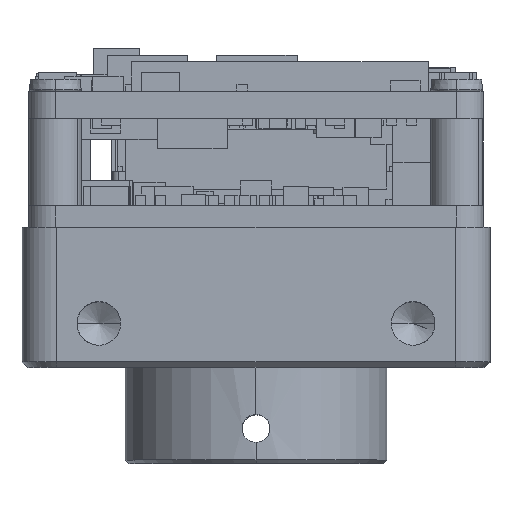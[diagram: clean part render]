
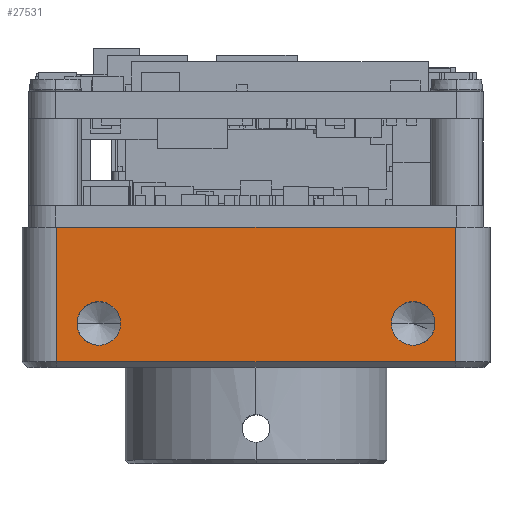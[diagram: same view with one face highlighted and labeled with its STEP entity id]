
A CAD part, top view. The second image highlights one B-rep face of the part: STEP entity #27531.
In plain terms, the highlighted planar face has unit normal (0, 0, 1).
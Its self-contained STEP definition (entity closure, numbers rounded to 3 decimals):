
#656 = CARTESIAN_POINT ( 'NONE',  ( -10.25, 2.5, 13.4 ) ) ;
#1816 = ORIENTED_EDGE ( 'NONE', *, *, #12610, .F. ) ;
#1964 = DIRECTION ( 'NONE',  ( 1., 0., 0. ) ) ;
#2414 = AXIS2_PLACEMENT_3D ( 'NONE', #76743, #66700, #28257 ) ;
#3017 = LINE ( 'NONE', #25276, #5752 ) ;
#5570 = DIRECTION ( 'NONE',  ( 0., 0., 1. ) ) ;
#5752 = VECTOR ( 'NONE', #48496, 1000. ) ;
#10668 = EDGE_CURVE ( 'NONE', #92991, #23358, #36415, .T. ) ;
#12176 = LINE ( 'NONE', #43559, #78360 ) ;
#12561 = CARTESIAN_POINT ( 'NONE',  ( -7.75, 2.5, 13.4 ) ) ;
#12610 = EDGE_CURVE ( 'NONE', #23358, #92991, #75349, .T. ) ;
#14636 = CARTESIAN_POINT ( 'NONE',  ( 11.4, 0.3, 13.4 ) ) ;
#14993 = FACE_BOUND ( 'NONE', #75119, .T. ) ;
#15639 = AXIS2_PLACEMENT_3D ( 'NONE', #67793, #5570, #75857 ) ;
#15755 = DIRECTION ( 'NONE',  ( 0., 0., 1. ) ) ;
#16609 = CARTESIAN_POINT ( 'NONE',  ( -11.4, 8., 13.4 ) ) ;
#22098 = VECTOR ( 'NONE', #99867, 1000. ) ;
#22647 = ORIENTED_EDGE ( 'NONE', *, *, #46222, .F. ) ;
#23358 = VERTEX_POINT ( 'NONE', #94810 ) ;
#25276 = CARTESIAN_POINT ( 'NONE',  ( -11.4, 8., 13.4 ) ) ;
#25464 = CARTESIAN_POINT ( 'NONE',  ( -13.4, 0.3, 13.4 ) ) ;
#27531 = ADVANCED_FACE ( 'NONE', ( #84317, #91940, #14993 ), #45876, .F. ) ;
#28257 = DIRECTION ( 'NONE',  ( -1., 0., 0. ) ) ;
#28415 = DIRECTION ( 'NONE',  ( 0., 1., 0. ) ) ;
#30977 = VERTEX_POINT ( 'NONE', #16609 ) ;
#31188 = VERTEX_POINT ( 'NONE', #12561 ) ;
#31612 = VECTOR ( 'NONE', #79556, 1000. ) ;
#35479 = CARTESIAN_POINT ( 'NONE',  ( -9., 2.5, 13.4 ) ) ;
#36247 = EDGE_CURVE ( 'NONE', #30977, #88417, #85112, .T. ) ;
#36415 = CIRCLE ( 'NONE', #49233, 1.25 ) ;
#37825 = EDGE_CURVE ( 'NONE', #30977, #52245, #3017, .T. ) ;
#39267 = ORIENTED_EDGE ( 'NONE', *, *, #36247, .F. ) ;
#39672 = LINE ( 'NONE', #25464, #31612 ) ;
#43009 = DIRECTION ( 'NONE',  ( 1., 0., 0. ) ) ;
#43559 = CARTESIAN_POINT ( 'NONE',  ( 11.4, 8., 13.4 ) ) ;
#44667 = AXIS2_PLACEMENT_3D ( 'NONE', #64695, #47483, #1964 ) ;
#44848 = ORIENTED_EDGE ( 'NONE', *, *, #10668, .F. ) ;
#45876 = PLANE ( 'NONE',  #2414 ) ;
#46222 = EDGE_CURVE ( 'NONE', #31188, #89509, #57607, .T. ) ;
#46630 = DIRECTION ( 'NONE',  ( 1., 0., 0. ) ) ;
#47091 = ORIENTED_EDGE ( 'NONE', *, *, #37825, .T. ) ;
#47483 = DIRECTION ( 'NONE',  ( 0., 0., 1. ) ) ;
#48314 = EDGE_LOOP ( 'NONE', ( #44848, #1816 ) ) ;
#48496 = DIRECTION ( 'NONE',  ( 0., -1., 0. ) ) ;
#49233 = AXIS2_PLACEMENT_3D ( 'NONE', #54225, #15755, #46630 ) ;
#50576 = DIRECTION ( 'NONE',  ( 0., 0., 1. ) ) ;
#52245 = VERTEX_POINT ( 'NONE', #97023 ) ;
#54225 = CARTESIAN_POINT ( 'NONE',  ( 9., 2.5, 13.4 ) ) ;
#57607 = CIRCLE ( 'NONE', #15639, 1.25 ) ;
#61780 = ORIENTED_EDGE ( 'NONE', *, *, #92383, .F. ) ;
#64695 = CARTESIAN_POINT ( 'NONE',  ( 9., 2.5, 13.4 ) ) ;
#64951 = ORIENTED_EDGE ( 'NONE', *, *, #73537, .T. ) ;
#66700 = DIRECTION ( 'NONE',  ( 0., 0., -1. ) ) ;
#67793 = CARTESIAN_POINT ( 'NONE',  ( -9., 2.5, 13.4 ) ) ;
#68999 = CARTESIAN_POINT ( 'NONE',  ( -13.4, 8., 13.4 ) ) ;
#71299 = EDGE_CURVE ( 'NONE', #71498, #88417, #12176, .T. ) ;
#71498 = VERTEX_POINT ( 'NONE', #14636 ) ;
#73537 = EDGE_CURVE ( 'NONE', #52245, #71498, #39672, .T. ) ;
#75119 = EDGE_LOOP ( 'NONE', ( #22647, #61780 ) ) ;
#75349 = CIRCLE ( 'NONE', #44667, 1.25 ) ;
#75857 = DIRECTION ( 'NONE',  ( 1., 0., 0. ) ) ;
#76743 = CARTESIAN_POINT ( 'NONE',  ( -13.4, 8., 13.4 ) ) ;
#78360 = VECTOR ( 'NONE', #28415, 1000. ) ;
#79556 = DIRECTION ( 'NONE',  ( 1., 0., 0. ) ) ;
#81530 = EDGE_LOOP ( 'NONE', ( #47091, #64951, #87644, #39267 ) ) ;
#84317 = FACE_BOUND ( 'NONE', #48314, .T. ) ;
#84433 = CIRCLE ( 'NONE', #97407, 1.25 ) ;
#85112 = LINE ( 'NONE', #68999, #22098 ) ;
#86171 = CARTESIAN_POINT ( 'NONE',  ( 10.25, 2.5, 13.4 ) ) ;
#87644 = ORIENTED_EDGE ( 'NONE', *, *, #71299, .T. ) ;
#88417 = VERTEX_POINT ( 'NONE', #92095 ) ;
#89509 = VERTEX_POINT ( 'NONE', #656 ) ;
#91940 = FACE_OUTER_BOUND ( 'NONE', #81530, .T. ) ;
#92095 = CARTESIAN_POINT ( 'NONE',  ( 11.4, 8., 13.4 ) ) ;
#92383 = EDGE_CURVE ( 'NONE', #89509, #31188, #84433, .T. ) ;
#92991 = VERTEX_POINT ( 'NONE', #86171 ) ;
#94810 = CARTESIAN_POINT ( 'NONE',  ( 7.75, 2.5, 13.4 ) ) ;
#97023 = CARTESIAN_POINT ( 'NONE',  ( -11.4, 0.3, 13.4 ) ) ;
#97407 = AXIS2_PLACEMENT_3D ( 'NONE', #35479, #50576, #43009 ) ;
#99867 = DIRECTION ( 'NONE',  ( 1., 0., 0. ) ) ;
